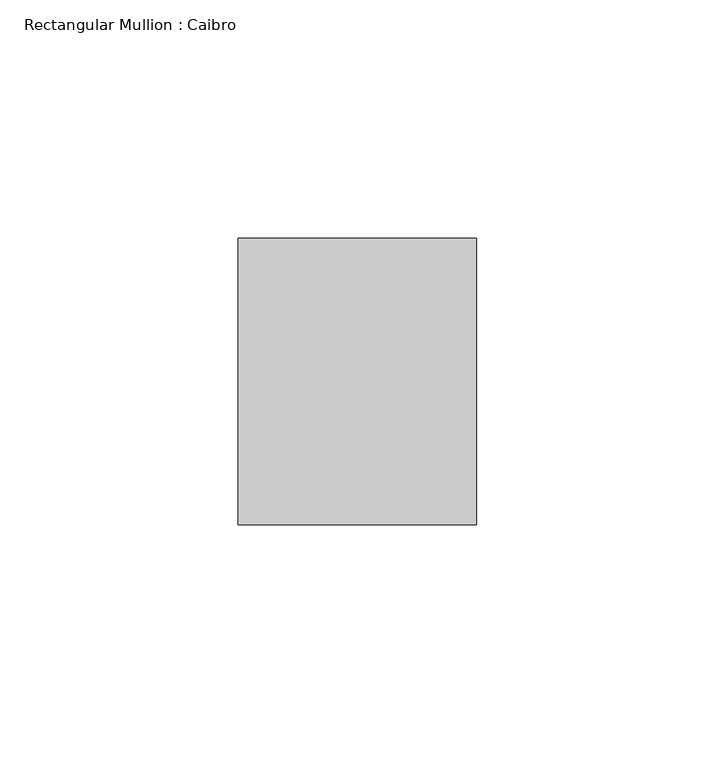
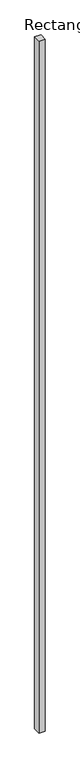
"""IFC4 building model written with IfcOpenShell, lengths in millimetres: member geometry, Rectangular Mullion : Caibro."""

from ifc_helpers import new_model, si_unit, frame, origin, place, context, project, spatial, polyline, outline, extrude, source, transform, mapped, element, save


def rectangular_mullion_caibro_bb2cc13f(model_context):
    return source(origin(), model_context, "Body", "SweptSolid", [
        extrude(outline(polyline([(-50.0, -60.0), (-50.0, 0.0), (0.0, 0.0), (0.0, -60.0), (-50.0, -60.0)])), frame((0.0, 0.0, -5952.2956296), z_axis=(0.0, 0.0, 1.0), x_axis=(1.0, 0.0, 0.0)), (0.0, 0.0, 1.0), 5952.2956296),
    ])


if __name__ == "__main__":
    model = new_model("IFC4")
    model_context = context("Model", 3, world=origin())
    ifc_project = project(units=[si_unit("LENGTHUNIT", "METRE", prefix="MILLI")], contexts=[model_context])
    site = spatial("IfcSite", under=ifc_project)
    building = spatial("IfcBuilding", under=site)
    placement = place(None, origin())
    rectangular_mullion_caibro_shape = rectangular_mullion_caibro_bb2cc13f(model_context)
    element("IfcMember", 1, ObjectType="Rectangular Mullion : Caibro", at=placement, inside=building, context=model_context, shape_type="MappedRepresentation", body=[
        mapped(rectangular_mullion_caibro_shape, transform((0.0, 0.0, 0.0), x_axis=(1.0, 0.0, 0.0), y_axis=(0.0, 1.0, 0.0), z_axis=(0.0, 0.0, 1.0))),
    ])
    save(model, "model.ifc")
